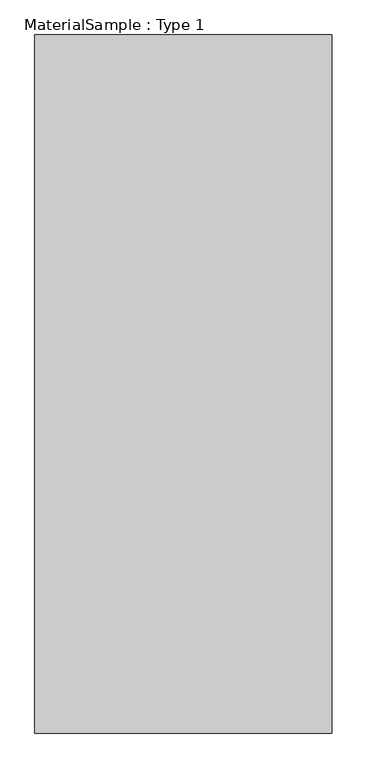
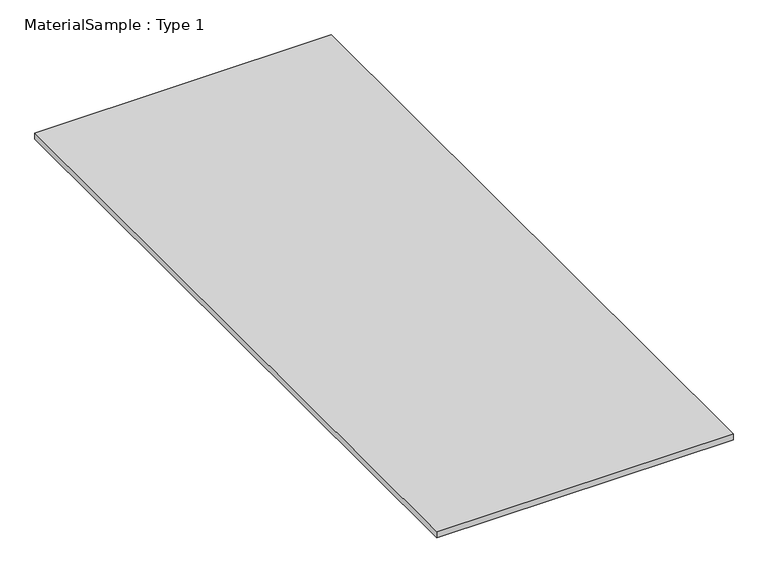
"""IFC4 building model written with IfcOpenShell, lengths in millimetres: proxy geometry, MaterialSample : Type 1."""

import ifcopenshell
import ifcopenshell.guid

model = None  # the IFC model being written
_history = None  # IfcOwnerHistory: only IFC2X3 demands one
_inside = {}  # id of a spatial element -> (the spatial element, [elements in it])
_under = {}  # id of a project, library or spatial element -> (it, [spatial elements below it])
_declared = {}  # id of a project -> (the project, [libraries it declares])
_typed = {}  # id of a type object -> (the type object, [elements of that type])
_made_of = {}  # id of a material, layer set ... -> (it, [elements and type objects made of it])


def new_model(schema):
    """Start an empty IFC model of exactly this schema.

    Asked for "IFC4X3", IfcOpenShell would pick the latest addendum, in which some entities
    have other attributes; the version numbers below select the first issue.
    IFC2X3 requires an IfcOwnerHistory on every rooted entity: one is made here for all.
    """
    global model, _history
    if schema == "IFC4X3":
        model = ifcopenshell.file(schema_version=(4, 3, 0, 0))
    else:
        model = ifcopenshell.file(schema=schema)
    _inside.clear()
    _under.clear()
    _declared.clear()
    _typed.clear()
    _made_of.clear()
    _history = None
    if model.schema == "IFC2X3":
        org = make("IfcOrganization", Name="unknown")
        user = make(
            "IfcPersonAndOrganization",
            ThePerson=make("IfcPerson", FamilyName="unknown"),
            TheOrganization=org,
        )
        app = make(
            "IfcApplication",
            ApplicationDeveloper=org,
            Version="unknown",
            ApplicationFullName="unknown",
            ApplicationIdentifier="unknown",
        )
        _history = make(
            "IfcOwnerHistory",
            OwningUser=user,
            OwningApplication=app,
            ChangeAction="ADDED",
            CreationDate=0,
        )
    return model


def make(cls, **values):
    """One entity of the class cls with the attributes given. An attribute that is None is left unset."""
    return model.create_entity(
        cls, **{name: value for name, value in values.items() if value is not None}
    )


def rooted(cls, **values):
    """An entity with a GlobalId (a new one), such as an element, a storey or a relation."""
    return make(cls, GlobalId=ifcopenshell.guid.new(), OwnerHistory=_history, **values)


def si_unit(unit_type, name, prefix=None):
    """IfcSIUnit, for example si_unit("LENGTHUNIT", "METRE", prefix="MILLI")."""
    return make("IfcSIUnit", UnitType=unit_type, Prefix=prefix, Name=name)


def assignment(units):
    """IfcUnitAssignment: the units of a project."""
    return None if units is None else make("IfcUnitAssignment", Units=units)


def point(xyz):
    """IfcCartesianPoint."""
    return None if xyz is None else make("IfcCartesianPoint", Coordinates=xyz)


def direction(xyz):
    """IfcDirection."""
    return None if xyz is None else make("IfcDirection", DirectionRatios=xyz)


def frame(location, z_axis=None, x_axis=None):
    """IfcAxis2Placement3D, a coordinate frame: its origin and axes. An axis left out is left unset."""
    return make(
        "IfcAxis2Placement3D",
        Location=point(location),
        Axis=direction(z_axis),
        RefDirection=direction(x_axis),
    )


def origin():
    """The frame at (0, 0, 0) with its axes left unset."""
    return frame((0.0, 0.0, 0.0))


def origin_with_axes():
    """The frame at (0, 0, 0) with the z axis (0, 0, 1) and the x axis (1, 0, 0) written out."""
    return frame((0.0, 0.0, 0.0), z_axis=(0.0, 0.0, 1.0), x_axis=(1.0, 0.0, 0.0))


def place(relative_to, where):
    """IfcLocalPlacement: puts the frame where relative to a parent placement (None: the world)."""
    return make(
        "IfcLocalPlacement", PlacementRelTo=relative_to, RelativePlacement=where
    )


def context(
    kind, dimensions, precision=None, world=None, true_north=None, identifier=None
):
    """IfcGeometricRepresentationContext, for example the 3D "Model" context."""
    return make(
        "IfcGeometricRepresentationContext",
        ContextIdentifier=identifier,
        ContextType=kind,
        CoordinateSpaceDimension=dimensions,
        Precision=precision,
        WorldCoordinateSystem=world,
        TrueNorth=true_north,
    )


def project(units=None, contexts=None):
    """IfcProject with its units and contexts."""
    return rooted(
        "IfcProject",
        Name="project",
        RepresentationContexts=contexts,
        UnitsInContext=assignment(units),
    )


def spatial(cls, under=None, at=None, **own):
    """A site, building, storey or space (cls), placed at a placement, below another one or the project."""
    s = rooted(cls, ObjectPlacement=at, **own)
    if under is not None:
        _under.setdefault(under.id(), (under, []))[1].append(s)
    return s


def polyline(points):
    """IfcPolyline through the points."""
    return make("IfcPolyline", Points=[point(p) for p in points])


def outline(outer, holes=None, kind="AREA"):
    """IfcArbitraryClosedProfileDef: a profile drawn as a closed curve; with holes, ...WithVoids."""
    if holes is None:
        return make("IfcArbitraryClosedProfileDef", ProfileType=kind, OuterCurve=outer)
    return make(
        "IfcArbitraryProfileDefWithVoids",
        ProfileType=kind,
        OuterCurve=outer,
        InnerCurves=holes,
    )


def extrude(swept, where, along, depth):
    """IfcExtrudedAreaSolid: the profile swept, set in the frame where, extruded along a direction by depth."""
    return make(
        "IfcExtrudedAreaSolid",
        SweptArea=swept,
        Position=where,
        ExtrudedDirection=direction(along),
        Depth=depth,
    )


def shape(context_of_items, identifier, shape_type, items):
    """IfcShapeRepresentation: the items that make up one representation, for example the "Body"."""
    return make(
        "IfcShapeRepresentation",
        ContextOfItems=context_of_items,
        RepresentationIdentifier=identifier,
        RepresentationType=shape_type,
        Items=items,
    )


def source(mapping_origin, context_of_items, identifier, shape_type, items):
    """IfcRepresentationMap: a shape defined once, which mapped items show again and again."""
    return make(
        "IfcRepresentationMap",
        MappingOrigin=mapping_origin,
        MappedRepresentation=shape(context_of_items, identifier, shape_type, items),
    )


def transform(
    local_origin,
    x_axis=None,
    y_axis=None,
    z_axis=None,
    scale=None,
    scale2=None,
    scale3=None,
    uniform=True,
):
    """IfcCartesianTransformationOperator3D, or its non-uniform kind. x_axis, y_axis, z_axis: its Axis1, 2, 3."""
    if uniform:
        return make(
            "IfcCartesianTransformationOperator3D",
            Axis1=direction(x_axis),
            Axis2=direction(y_axis),
            LocalOrigin=point(local_origin),
            Scale=scale,
            Axis3=direction(z_axis),
        )
    return make(
        "IfcCartesianTransformationOperator3DnonUniform",
        Axis1=direction(x_axis),
        Axis2=direction(y_axis),
        LocalOrigin=point(local_origin),
        Scale=scale,
        Axis3=direction(z_axis),
        Scale2=scale2,
        Scale3=scale3,
    )


def mapped(mapping_source, mapping_target):
    """IfcMappedItem: shows the shape of a source again, moved by a transform."""
    return make(
        "IfcMappedItem", MappingSource=mapping_source, MappingTarget=mapping_target
    )


def made_of(thing, what):
    """Note that an element or type object is made of a material, layer set ...; save() writes the relation."""
    if what is not None:
        _made_of.setdefault(what.id(), (what, []))[1].append(thing)
    return thing


def element(
    cls,
    number,
    at=None,
    inside=None,
    cuts=None,
    type_object=None,
    material=None,
    context=None,
    identifier="Body",
    shape_type=None,
    held_by="IfcProductDefinitionShape",
    body=None,
    shapes=None,
    **own,
):
    """One element of the class cls, such as IfcWall. Its Tag is "e" and its number.

    at: its placement. inside: the storey or other place that contains it. cuts: it is an
    opening in that element (IfcRelVoidsElement). A single representation is given by context,
    identifier, shape_type and body (its items); several are given by shapes. held_by: the class
    of the entity that holds the representations. save() writes the other relations.
    """
    e = rooted(cls, Tag="e%d" % number, ObjectPlacement=at, **own)
    if body is not None:
        shapes = [shape(context, identifier, shape_type, body)]
    if shapes is not None:
        e.Representation = make(held_by, Representations=shapes)
    if inside is not None:
        _inside.setdefault(inside.id(), (inside, []))[1].append(e)
    if cuts is not None:
        rooted(
            "IfcRelVoidsElement", RelatingBuildingElement=cuts, RelatedOpeningElement=e
        )
    if type_object is not None:
        _typed.setdefault(type_object.id(), (type_object, []))[1].append(e)
    return made_of(e, material)


def aggregate(whole, parts):
    """IfcRelAggregates: a whole, such as a stair, and the parts it consists of."""
    return rooted("IfcRelAggregates", RelatingObject=whole, RelatedObjects=parts)


def save(model, path):
    """Write the relations noted so far, then the file.

    IfcRelAggregates (storeys below a building ...), IfcRelContainedInSpatialStructure (elements
    in a storey), IfcRelDefinesByType, IfcRelAssociatesMaterial and IfcRelDeclares: one each for
    every whole, place, type object, material and project.
    """
    for whole, parts in _under.values():
        aggregate(whole, parts)
    for where, things in _inside.values():
        rooted(
            "IfcRelContainedInSpatialStructure",
            RelatedElements=things,
            RelatingStructure=where,
        )
    for kind, things in _typed.values():
        rooted("IfcRelDefinesByType", RelatedObjects=things, RelatingType=kind)
    for what, things in _made_of.values():
        rooted("IfcRelAssociatesMaterial", RelatedObjects=things, RelatingMaterial=what)
    for by, libraries in _declared.values():
        rooted("IfcRelDeclares", RelatingContext=by, RelatedDefinitions=libraries)
    model.write(path)


def materialsample_type_1_ed131d8e(model_context):
    return source(origin(), model_context, "Body", "SweptSolid", [
        extrude(outline(polyline([(1176.0974335, 20.0569203), (7.6974335, 20.0569203), (7.6974335, 2763.2569203), (1176.0974335, 2763.2569203), (1176.0974335, 20.0569203)])), origin_with_axes(), (0.0, 0.0, 1.0), 25.4),
    ])


if __name__ == "__main__":
    model = new_model("IFC4")
    model_context = context("Model", 3, world=origin())
    ifc_project = project(units=[si_unit("LENGTHUNIT", "METRE", prefix="MILLI")], contexts=[model_context])
    site = spatial("IfcSite", under=ifc_project)
    building = spatial("IfcBuilding", under=site)
    placement = place(None, origin())
    materialsample_type_1_shape = materialsample_type_1_ed131d8e(model_context)
    element("IfcBuildingElementProxy", 1, Name="MaterialSample : Type 1", ObjectType="MaterialSample : Type 1", at=placement, inside=building, context=model_context, shape_type="MappedRepresentation", body=[
        mapped(materialsample_type_1_shape, transform((0.0, 0.0, 0.0), x_axis=(1.0, 0.0, 0.0), y_axis=(0.0, 1.0, 0.0), z_axis=(0.0, 0.0, 1.0))),
    ])
    save(model, "model.ifc")
